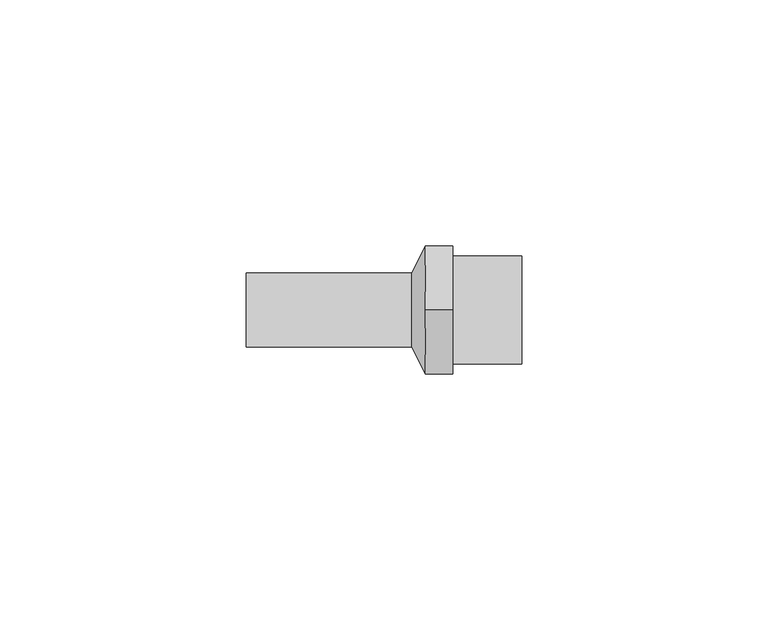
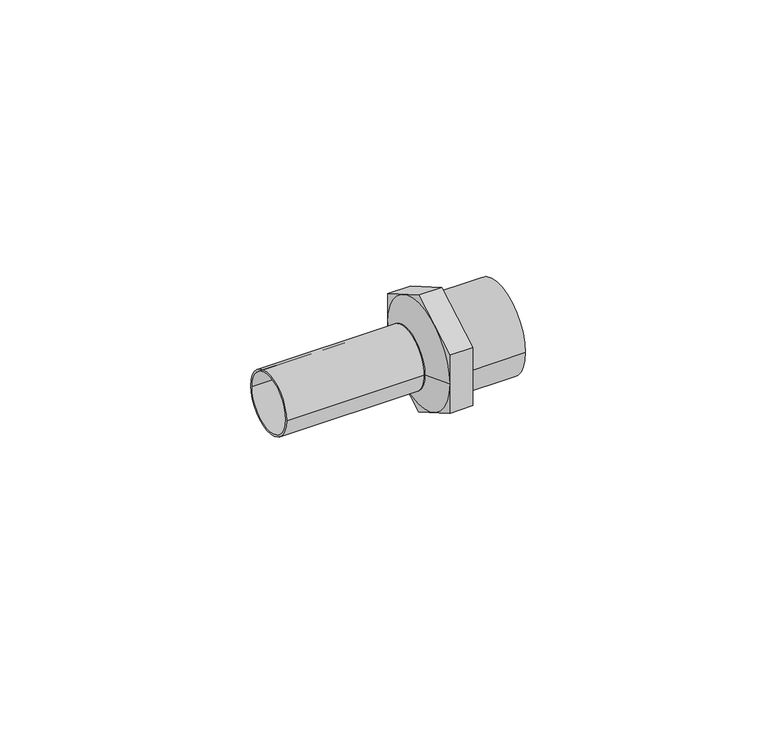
"""IFC4 building model written with IfcOpenShell, lengths in millimetres: pipe fitting geometry, VALTEC_VTi.906.I_Вставка с наружной резьбой нержавеющая сталь : VTi.906.I."""

import ifcopenshell
import ifcopenshell.guid

model = None  # the IFC model being written
_history = None  # IfcOwnerHistory: only IFC2X3 demands one
_inside = {}  # id of a spatial element -> (the spatial element, [elements in it])
_under = {}  # id of a project, library or spatial element -> (it, [spatial elements below it])
_declared = {}  # id of a project -> (the project, [libraries it declares])
_typed = {}  # id of a type object -> (the type object, [elements of that type])
_made_of = {}  # id of a material, layer set ... -> (it, [elements and type objects made of it])


def new_model(schema):
    """Start an empty IFC model of exactly this schema.

    Asked for "IFC4X3", IfcOpenShell would pick the latest addendum, in which some entities
    have other attributes; the version numbers below select the first issue.
    IFC2X3 requires an IfcOwnerHistory on every rooted entity: one is made here for all.
    """
    global model, _history
    if schema == "IFC4X3":
        model = ifcopenshell.file(schema_version=(4, 3, 0, 0))
    else:
        model = ifcopenshell.file(schema=schema)
    _inside.clear()
    _under.clear()
    _declared.clear()
    _typed.clear()
    _made_of.clear()
    _history = None
    if model.schema == "IFC2X3":
        org = make("IfcOrganization", Name="unknown")
        user = make(
            "IfcPersonAndOrganization",
            ThePerson=make("IfcPerson", FamilyName="unknown"),
            TheOrganization=org,
        )
        app = make(
            "IfcApplication",
            ApplicationDeveloper=org,
            Version="unknown",
            ApplicationFullName="unknown",
            ApplicationIdentifier="unknown",
        )
        _history = make(
            "IfcOwnerHistory",
            OwningUser=user,
            OwningApplication=app,
            ChangeAction="ADDED",
            CreationDate=0,
        )
    return model


def make(cls, **values):
    """One entity of the class cls with the attributes given. An attribute that is None is left unset."""
    return model.create_entity(
        cls, **{name: value for name, value in values.items() if value is not None}
    )


def rooted(cls, **values):
    """An entity with a GlobalId (a new one), such as an element, a storey or a relation."""
    return make(cls, GlobalId=ifcopenshell.guid.new(), OwnerHistory=_history, **values)


def si_unit(unit_type, name, prefix=None):
    """IfcSIUnit, for example si_unit("LENGTHUNIT", "METRE", prefix="MILLI")."""
    return make("IfcSIUnit", UnitType=unit_type, Prefix=prefix, Name=name)


def assignment(units):
    """IfcUnitAssignment: the units of a project."""
    return None if units is None else make("IfcUnitAssignment", Units=units)


def point(xyz):
    """IfcCartesianPoint."""
    return None if xyz is None else make("IfcCartesianPoint", Coordinates=xyz)


def direction(xyz):
    """IfcDirection."""
    return None if xyz is None else make("IfcDirection", DirectionRatios=xyz)


def frame(location, z_axis=None, x_axis=None):
    """IfcAxis2Placement3D, a coordinate frame: its origin and axes. An axis left out is left unset."""
    return make(
        "IfcAxis2Placement3D",
        Location=point(location),
        Axis=direction(z_axis),
        RefDirection=direction(x_axis),
    )


def frame_2d(location, x_axis=None):
    """IfcAxis2Placement2D, a coordinate frame in the plane: its origin and x axis."""
    return make(
        "IfcAxis2Placement2D", Location=point(location), RefDirection=direction(x_axis)
    )


def origin():
    """The frame at (0, 0, 0) with its axes left unset."""
    return frame((0.0, 0.0, 0.0))


def origin_2d():
    """The frame at (0, 0) in the plane with its x axis left unset."""
    return frame_2d((0.0, 0.0))


def place(relative_to, where):
    """IfcLocalPlacement: puts the frame where relative to a parent placement (None: the world)."""
    return make(
        "IfcLocalPlacement", PlacementRelTo=relative_to, RelativePlacement=where
    )


def context(
    kind, dimensions, precision=None, world=None, true_north=None, identifier=None
):
    """IfcGeometricRepresentationContext, for example the 3D "Model" context."""
    return make(
        "IfcGeometricRepresentationContext",
        ContextIdentifier=identifier,
        ContextType=kind,
        CoordinateSpaceDimension=dimensions,
        Precision=precision,
        WorldCoordinateSystem=world,
        TrueNorth=true_north,
    )


def project(units=None, contexts=None):
    """IfcProject with its units and contexts."""
    return rooted(
        "IfcProject",
        Name="project",
        RepresentationContexts=contexts,
        UnitsInContext=assignment(units),
    )


def spatial(cls, under=None, at=None, **own):
    """A site, building, storey or space (cls), placed at a placement, below another one or the project."""
    s = rooted(cls, ObjectPlacement=at, **own)
    if under is not None:
        _under.setdefault(under.id(), (under, []))[1].append(s)
    return s


def polyline(points):
    """IfcPolyline through the points."""
    return make("IfcPolyline", Points=[point(p) for p in points])


def circle_curve(where, radius):
    """IfcCircle in the frame where."""
    return make("IfcCircle", Position=where, Radius=radius)


def trimmed(basis, trim1, trim2, sense, master):
    """IfcTrimmedCurve: the piece of a basis curve between two trims."""
    return make(
        "IfcTrimmedCurve",
        BasisCurve=basis,
        Trim1=trim1,
        Trim2=trim2,
        SenseAgreement=sense,
        MasterRepresentation=master,
    )


def segment(curve, same_sense, transition):
    """IfcCompositeCurveSegment."""
    return make(
        "IfcCompositeCurveSegment",
        Transition=transition,
        SameSense=same_sense,
        ParentCurve=curve,
    )


def composite_curve(segments, self_intersect=None):
    """IfcCompositeCurve: segments joined end to end."""
    return make("IfcCompositeCurve", Segments=segments, SelfIntersect=self_intersect)


def outline(outer, holes=None, kind="AREA"):
    """IfcArbitraryClosedProfileDef: a profile drawn as a closed curve; with holes, ...WithVoids."""
    if holes is None:
        return make("IfcArbitraryClosedProfileDef", ProfileType=kind, OuterCurve=outer)
    return make(
        "IfcArbitraryProfileDefWithVoids",
        ProfileType=kind,
        OuterCurve=outer,
        InnerCurves=holes,
    )


def extrude(swept, where, along, depth):
    """IfcExtrudedAreaSolid: the profile swept, set in the frame where, extruded along a direction by depth."""
    return make(
        "IfcExtrudedAreaSolid",
        SweptArea=swept,
        Position=where,
        ExtrudedDirection=direction(along),
        Depth=depth,
    )


def shape(context_of_items, identifier, shape_type, items):
    """IfcShapeRepresentation: the items that make up one representation, for example the "Body"."""
    return make(
        "IfcShapeRepresentation",
        ContextOfItems=context_of_items,
        RepresentationIdentifier=identifier,
        RepresentationType=shape_type,
        Items=items,
    )


def source(mapping_origin, context_of_items, identifier, shape_type, items):
    """IfcRepresentationMap: a shape defined once, which mapped items show again and again."""
    return make(
        "IfcRepresentationMap",
        MappingOrigin=mapping_origin,
        MappedRepresentation=shape(context_of_items, identifier, shape_type, items),
    )


def transform(
    local_origin,
    x_axis=None,
    y_axis=None,
    z_axis=None,
    scale=None,
    scale2=None,
    scale3=None,
    uniform=True,
):
    """IfcCartesianTransformationOperator3D, or its non-uniform kind. x_axis, y_axis, z_axis: its Axis1, 2, 3."""
    if uniform:
        return make(
            "IfcCartesianTransformationOperator3D",
            Axis1=direction(x_axis),
            Axis2=direction(y_axis),
            LocalOrigin=point(local_origin),
            Scale=scale,
            Axis3=direction(z_axis),
        )
    return make(
        "IfcCartesianTransformationOperator3DnonUniform",
        Axis1=direction(x_axis),
        Axis2=direction(y_axis),
        LocalOrigin=point(local_origin),
        Scale=scale,
        Axis3=direction(z_axis),
        Scale2=scale2,
        Scale3=scale3,
    )


def mapped(mapping_source, mapping_target):
    """IfcMappedItem: shows the shape of a source again, moved by a transform."""
    return make(
        "IfcMappedItem", MappingSource=mapping_source, MappingTarget=mapping_target
    )


def made_of(thing, what):
    """Note that an element or type object is made of a material, layer set ...; save() writes the relation."""
    if what is not None:
        _made_of.setdefault(what.id(), (what, []))[1].append(thing)
    return thing


def element(
    cls,
    number,
    at=None,
    inside=None,
    cuts=None,
    type_object=None,
    material=None,
    context=None,
    identifier="Body",
    shape_type=None,
    held_by="IfcProductDefinitionShape",
    body=None,
    shapes=None,
    **own,
):
    """One element of the class cls, such as IfcWall. Its Tag is "e" and its number.

    at: its placement. inside: the storey or other place that contains it. cuts: it is an
    opening in that element (IfcRelVoidsElement). A single representation is given by context,
    identifier, shape_type and body (its items); several are given by shapes. held_by: the class
    of the entity that holds the representations. save() writes the other relations.
    """
    e = rooted(cls, Tag="e%d" % number, ObjectPlacement=at, **own)
    if body is not None:
        shapes = [shape(context, identifier, shape_type, body)]
    if shapes is not None:
        e.Representation = make(held_by, Representations=shapes)
    if inside is not None:
        _inside.setdefault(inside.id(), (inside, []))[1].append(e)
    if cuts is not None:
        rooted(
            "IfcRelVoidsElement", RelatingBuildingElement=cuts, RelatedOpeningElement=e
        )
    if type_object is not None:
        _typed.setdefault(type_object.id(), (type_object, []))[1].append(e)
    return made_of(e, material)


def aggregate(whole, parts):
    """IfcRelAggregates: a whole, such as a stair, and the parts it consists of."""
    return rooted("IfcRelAggregates", RelatingObject=whole, RelatedObjects=parts)


def save(model, path):
    """Write the relations noted so far, then the file.

    IfcRelAggregates (storeys below a building ...), IfcRelContainedInSpatialStructure (elements
    in a storey), IfcRelDefinesByType, IfcRelAssociatesMaterial and IfcRelDeclares: one each for
    every whole, place, type object, material and project.
    """
    for whole, parts in _under.values():
        aggregate(whole, parts)
    for where, things in _inside.values():
        rooted(
            "IfcRelContainedInSpatialStructure",
            RelatedElements=things,
            RelatingStructure=where,
        )
    for kind, things in _typed.values():
        rooted("IfcRelDefinesByType", RelatedObjects=things, RelatingType=kind)
    for what, things in _made_of.values():
        rooted("IfcRelAssociatesMaterial", RelatedObjects=things, RelatingMaterial=what)
    for by, libraries in _declared.values():
        rooted("IfcRelDeclares", RelatingContext=by, RelatedDefinitions=libraries)
    model.write(path)


def plane_surface(at):
    """IfcPlane: the flat surface through the origin of the frame at, square to its z axis."""
    return make("IfcPlane", Position=at)


def revolved_surface(curve, axis_point, axis_direction):
    """IfcSurfaceOfRevolution: the curve turned about the line through axis_point along axis_direction."""
    return make(
        "IfcSurfaceOfRevolution",
        SweptCurve=make("IfcArbitraryOpenProfileDef", ProfileType="CURVE", Curve=curve),
        AxisPosition=make("IfcAxis1Placement", Location=point(axis_point), Axis=direction(axis_direction)),
    )


def advanced_brep(points, edges, surfaces, faces):
    """IfcAdvancedBrep: a solid bounded by faces that lie on surfaces and meet in shared edges.

    An edge is (start, end): straight between two places in points (the first is 0);
    or (start, end, curve); or (start, end, curve, False) where it runs against its curve.
    A face is (place in surfaces, loops), or (place, loops, False) where it looks against
    its surface's normal. A loop lists edges by number (the first is 1), with a minus sign
    where the edge is run from its end to its start. The first loop is the outer one.
    """
    corners = [point(p) for p in points]
    vertices = [make("IfcVertexPoint", VertexGeometry=c) for c in corners]
    made = []
    for start, end, *more in edges:
        made.append(
            make(
                "IfcEdgeCurve",
                EdgeStart=vertices[start],
                EdgeEnd=vertices[end],
                EdgeGeometry=more[0] if more else make("IfcPolyline", Points=[corners[start], corners[end]]),
                SameSense=more[1] if len(more) > 1 else True,
            )
        )
    hull = []
    for where, loops, *sense in faces:
        bounds = []
        for j, loop in enumerate(loops):
            ring = [make("IfcOrientedEdge", EdgeElement=made[abs(k) - 1], Orientation=k > 0) for k in loop]
            bounds.append(
                make(
                    "IfcFaceOuterBound" if j == 0 else "IfcFaceBound",
                    Bound=make("IfcEdgeLoop", EdgeList=ring),
                    Orientation=True,
                )
            )
        hull.append(make("IfcAdvancedFace", Bounds=bounds, FaceSurface=surfaces[where], SameSense=sense[0] if sense else True))
    return make("IfcAdvancedBrep", Outer=make("IfcClosedShell", CfsFaces=hull))


def pipe_fitting_9670b76f(model_context):
    return source(origin(), model_context, "Body", "SolidModel", [
        extrude(outline(composite_curve([segment(trimmed(circle_curve(origin_2d(), 11.0), [point((-11.0, 0.0))], [point((11.0, 0.0))], False, "CARTESIAN"), True, "CONTINUOUS"), segment(trimmed(circle_curve(origin_2d(), 11.0), [point((11.0, 0.0))], [point((-11.0, 0.0))], False, "CARTESIAN"), True, "CONTINUOUS")], self_intersect=False), holes=[composite_curve([segment(trimmed(circle_curve(origin_2d(), 10.0), [point((-10.0, 0.0))], [point((10.0, 0.0))], True, "CARTESIAN"), True, "CONTINUOUS"), segment(trimmed(circle_curve(origin_2d(), 10.0), [point((10.0, 0.0))], [point((-10.0, 0.0))], True, "CARTESIAN"), True, "CONTINUOUS")], self_intersect=False)]), frame((42.0, 0.0, 0.0), z_axis=(1.0, 0.0, 0.0), x_axis=(0.0, 1.0, 0.0)), (0.0, 0.0, 1.0), 14.0),
        advanced_brep(
        [(36.4, -13.0, 0.0), (36.4, 13.0, 0.0), (33.6, -7.5, 0.0), (33.6, 7.5, 0.0)],
        [
            (0, 1, circle_curve(frame((36.4, 0.0, 0.0), z_axis=(1.0, 0.0, 0.0), x_axis=(0.0, -1.0, 0.0)), 13.0)),
            (1, 0, circle_curve(frame((36.4, 0.0, 0.0), z_axis=(1.0, 0.0, 0.0), x_axis=(0.0, 1.0, 0.0)), 13.0)),
            (2, 3, circle_curve(frame((33.6, 0.0, 0.0), z_axis=(-1.0, 0.0, 0.0), x_axis=(0.0, 1.0, 0.0)), 7.5)),
            (3, 2, circle_curve(frame((33.6, 0.0, 0.0), z_axis=(-1.0, 0.0, 0.0), x_axis=(0.0, -1.0, 0.0)), 7.5)),
            (3, 1),
            (0, 2),
        ],
        [
            plane_surface(frame((36.4, 0.0, 0.0), z_axis=(1.0, 0.0, 0.0), x_axis=(0.0, 0.0, -1.0))),
            plane_surface(frame((33.6, 0.0, 0.0), z_axis=(-1.0, 0.0, 0.0), x_axis=(0.0, 0.0, -1.0))),
            revolved_surface(polyline([(33.6, 7.499999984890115, 0.0), (36.4, 13.0, 0.0)]), (29.7818182, 0.0, 0.0), (1.0, 0.0, 0.0)),
            revolved_surface(polyline([(33.6, -7.499999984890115, 0.0), (36.4, -13.0, 0.0)]), (29.7818182, 0.0, 0.0), (1.0, 0.0, 0.0)),
        ],
        [
            (0, [[1, 2]]),
            (1, [[3, 4]]),
            (2, [[-4, 5, -1, 6]]),
            (3, [[-3, -6, -2, -5]]),
        ],
    ),
        extrude(outline(polyline([(0.0, 15.011107), (13.0, 7.5055535), (13.0, -7.5055535), (0.0, -15.011107), (-13.0, -7.5055535), (-13.0, 7.5055535), (0.0, 15.011107)]), holes=[composite_curve([segment(trimmed(circle_curve(origin_2d(), 10.0), [point((-10.0, 0.0))], [point((10.0, 0.0))], True, "CARTESIAN"), True, "CONTINUOUS"), segment(trimmed(circle_curve(origin_2d(), 10.0), [point((10.0, 0.0))], [point((-10.0, 0.0))], True, "CARTESIAN"), True, "CONTINUOUS")], self_intersect=False)]), frame((36.4, 0.0, 0.0), z_axis=(1.0, 0.0, 0.0), x_axis=(0.0, 1.0, 0.0)), (0.0, 0.0, 1.0), 5.6),
        extrude(outline(composite_curve([segment(trimmed(circle_curve(origin_2d(), 7.5), [point((-7.5, 0.0))], [point((7.5, 0.0))], False, "CARTESIAN"), True, "CONTINUOUS"), segment(trimmed(circle_curve(origin_2d(), 7.5), [point((7.5, 0.0))], [point((-7.5, 0.0))], False, "CARTESIAN"), True, "CONTINUOUS")], self_intersect=False), holes=[composite_curve([segment(trimmed(circle_curve(origin_2d(), 7.0), [point((-7.0, 0.0))], [point((7.0, 0.0))], True, "CARTESIAN"), True, "CONTINUOUS"), segment(trimmed(circle_curve(origin_2d(), 7.0), [point((7.0, 0.0))], [point((-7.0, 0.0))], True, "CARTESIAN"), True, "CONTINUOUS")], self_intersect=False)]), frame((0.0, 0.0, 0.0), z_axis=(1.0, 0.0, 0.0), x_axis=(0.0, 1.0, 0.0)), (0.0, 0.0, 1.0), 33.6),
    ])


if __name__ == "__main__":
    model = new_model("IFC4")
    model_context = context("Model", 3, world=origin())
    ifc_project = project(units=[si_unit("LENGTHUNIT", "METRE", prefix="MILLI")], contexts=[model_context])
    site = spatial("IfcSite", under=ifc_project)
    building = spatial("IfcBuilding", under=site)
    placement = place(None, origin())
    pipe_fitting_shape = pipe_fitting_9670b76f(model_context)
    element("IfcPipeFitting", 1, ObjectType="VALTEC_VTi.906.I_Вставка с наружной резьбой нержавеющая сталь : VTi.906.I", at=placement, inside=building, context=model_context, shape_type="MappedRepresentation", body=[
        mapped(pipe_fitting_shape, transform((0.0, 0.0, 0.0), x_axis=(1.0, 0.0, 0.0), y_axis=(0.0, 1.0, 0.0), z_axis=(0.0, 0.0, 1.0))),
    ])
    save(model, "model.ifc")
